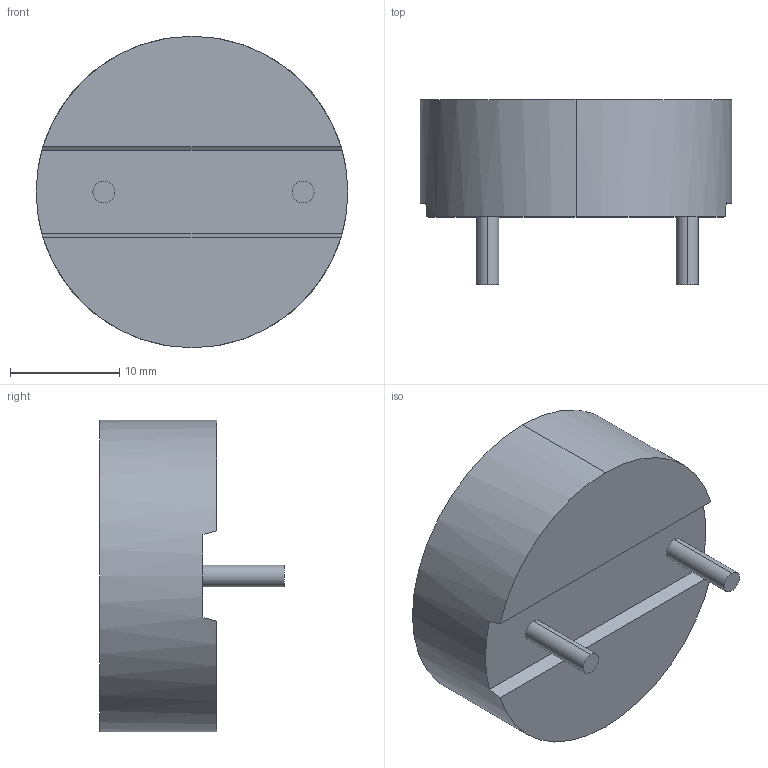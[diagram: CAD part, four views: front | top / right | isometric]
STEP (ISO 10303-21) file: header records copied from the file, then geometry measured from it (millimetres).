
FILE_DESCRIPTION (( 'STEP AP214' ), '1' );
FILE_NAME ('IHTH_IHTH1125KZ 6.8uH.step', '2014-06-30T14:01:00', ( '' ), ( '' ), 'SwSTEP 2.0', 'SolidWorks 2014', '' );
FILE_SCHEMA (( 'AUTOMOTIVE_DESIGN' ));
Length unit declared in the file: inch
Products named in the file (1): IHTH_IHTH1125KZ   6.8uH
Bounding box: 28.57 x 16.94 x 28.57 mm (x, y, z)
Volume: 6652.1 mm3; surface area: 2375.1 mm2
Topology: 1 solids, 1 shells, 39 faces, 90 edges, 60 vertices
Faces by surface type: plane 33, cylinder 6
Entity records: 1231 total; most frequent: CARTESIAN_POINT 202, DIRECTION 182, ORIENTED_EDGE 180, EDGE_CURVE 90, LINE 70, VECTOR 70, VERTEX_POINT 60, AXIS2_PLACEMENT_3D 56
